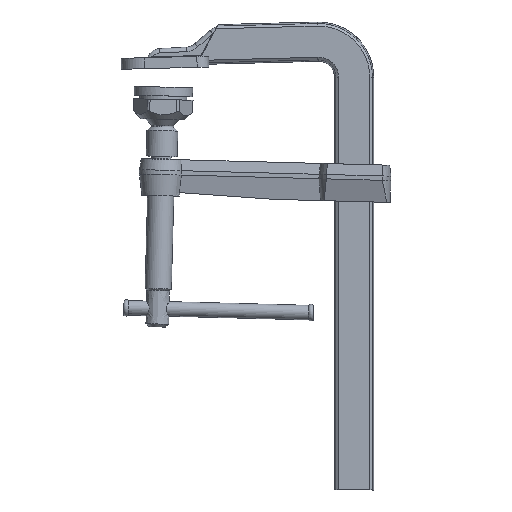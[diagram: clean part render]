
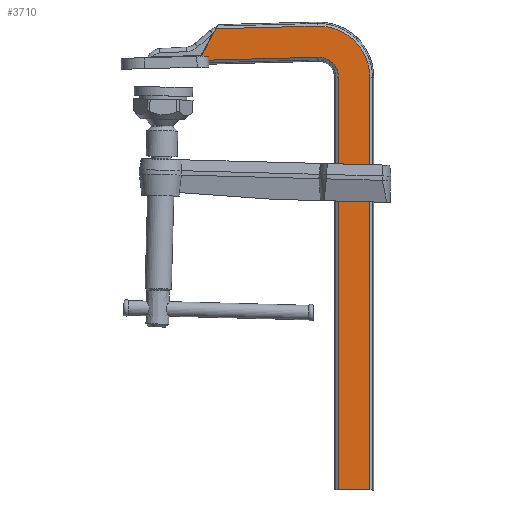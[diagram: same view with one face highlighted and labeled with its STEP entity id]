
A CAD part, front view. The second image highlights one B-rep face of the part: STEP entity #3710.
In plain terms, the highlighted free-form (B-spline) face has degree [1, 1] with [2, 2] control points.
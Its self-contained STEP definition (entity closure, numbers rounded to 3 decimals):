
#3500=CARTESIAN_POINT('',(1.8,-6.5,0.));
#3501=VERTEX_POINT('',#3500);
#3516=CARTESIAN_POINT('',(1.8,-6.5,-283.));
#3517=VERTEX_POINT('',#3516);
#3523=CARTESIAN_POINT('',(1.8,-6.5,-283.));
#3524=CARTESIAN_POINT('',(1.8,-6.5,0.));
#3525=B_SPLINE_CURVE_WITH_KNOTS('',1,(#3523,#3524),.POLYLINE_FORM.,.F.,.U.,(2,2),(0.586,1.),.UNSPECIFIED.);
#3526=EDGE_CURVE('',#3517,#3501,#3525,.T.);
#3620=CARTESIAN_POINT('',(23.2,-6.5,0.));
#3621=VERTEX_POINT('',#3620);
#3628=CARTESIAN_POINT('',(23.2,-6.5,-283.));
#3629=VERTEX_POINT('',#3628);
#3635=CARTESIAN_POINT('',(23.2,-6.5,-283.));
#3636=CARTESIAN_POINT('',(23.2,-6.5,0.));
#3637=B_SPLINE_CURVE_WITH_KNOTS('',1,(#3635,#3636),.POLYLINE_FORM.,.F.,.U.,(2,2),(0.586,1.),.UNSPECIFIED.);
#3638=EDGE_CURVE('',#3629,#3621,#3637,.T.);
#3643=CARTESIAN_POINT('',(364.476,-6.5,105.554));
#3644=CARTESIAN_POINT('',(364.476,-6.5,-732.978));
#3645=CARTESIAN_POINT('',(-474.056,-6.5,105.554));
#3646=CARTESIAN_POINT('',(-474.056,-6.5,-732.978));
#3647=B_SPLINE_SURFACE_WITH_KNOTS('',1,1,((#3643,#3644),(#3645,#3646)),.PLANE_SURF.,.F.,.F.,.U.,(2,2),(2,2),(0.,1.),(0.,1.),.UNSPECIFIED.);
#3648=ORIENTED_EDGE('',*,*,#3526,.F.);
#3649=CARTESIAN_POINT('',(1.8,-6.5,-283.));
#3650=CARTESIAN_POINT('',(23.2,-6.5,-283.));
#3651=B_SPLINE_CURVE_WITH_KNOTS('',1,(#3649,#3650),.POLYLINE_FORM.,.F.,.U.,(2,2),(0.,1.),.UNSPECIFIED.);
#3652=EDGE_CURVE('',#3517,#3629,#3651,.T.);
#3653=ORIENTED_EDGE('',*,*,#3652,.T.);
#3654=ORIENTED_EDGE('',*,*,#3638,.T.);
#3655=CARTESIAN_POINT('',(-12.921,-6.5,35.188));
#3656=VERTEX_POINT('',#3655);
#3657=CARTESIAN_POINT('',(23.2,-6.5,0.));
#3658=CARTESIAN_POINT('',(23.2,-6.5,14.851));
#3659=CARTESIAN_POINT('',(12.562,-6.5,25.214));
#3660=CARTESIAN_POINT('',(1.924,-6.5,35.577));
#3661=CARTESIAN_POINT('',(-12.921,-6.5,35.188));
#3662=(BOUNDED_CURVE()B_SPLINE_CURVE(2,(#3657,#3658,#3659,#3660,#3661),.CIRCULAR_ARC.,.F.,.U.)B_SPLINE_CURVE_WITH_KNOTS((3,2,3),(0.,0.5,1.),.UNSPECIFIED.)CURVE()GEOMETRIC_REPRESENTATION_ITEM()RATIONAL_B_SPLINE_CURVE((1.,0.921,1.,0.921,1.))REPRESENTATION_ITEM(''));
#3663=EDGE_CURVE('',#3621,#3656,#3662,.T.);
#3664=ORIENTED_EDGE('',*,*,#3663,.T.);
#3665=CARTESIAN_POINT('',(-82.161,-6.5,33.375));
#3666=VERTEX_POINT('',#3665);
#3667=CARTESIAN_POINT('',(-12.921,-6.5,35.188));
#3668=CARTESIAN_POINT('',(-82.161,-6.5,33.375));
#3669=B_SPLINE_CURVE_WITH_KNOTS('',1,(#3667,#3668),.POLYLINE_FORM.,.F.,.U.,(2,2),(0.,0.577),.UNSPECIFIED.);
#3670=EDGE_CURVE('',#3656,#3666,#3669,.T.);
#3671=ORIENTED_EDGE('',*,*,#3670,.T.);
#3672=CARTESIAN_POINT('',(-92.411,-6.5,14.497));
#3673=VERTEX_POINT('',#3672);
#3674=CARTESIAN_POINT('',(-82.161,-6.5,33.375));
#3675=CARTESIAN_POINT('',(-92.411,-6.5,14.497));
#3676=B_SPLINE_CURVE_WITH_KNOTS('',1,(#3674,#3675),.POLYLINE_FORM.,.F.,.U.,(2,2),(0.903,0.936),.UNSPECIFIED.);
#3677=EDGE_CURVE('',#3666,#3673,#3676,.T.);
#3678=ORIENTED_EDGE('',*,*,#3677,.T.);
#3679=CARTESIAN_POINT('',(-87.411,-6.5,14.628));
#3680=VERTEX_POINT('',#3679);
#3681=CARTESIAN_POINT('',(-92.411,-6.5,14.497));
#3682=CARTESIAN_POINT('',(-87.411,-6.5,14.628));
#3683=B_SPLINE_CURVE_WITH_KNOTS('',1,(#3681,#3682),.POLYLINE_FORM.,.F.,.U.,(2,2),(0.271,0.288),.UNSPECIFIED.);
#3684=EDGE_CURVE('',#3673,#3680,#3683,.T.);
#3685=ORIENTED_EDGE('',*,*,#3684,.T.);
#3686=CARTESIAN_POINT('',(-87.338,-6.5,11.832));
#3687=VERTEX_POINT('',#3686);
#3688=CARTESIAN_POINT('',(-87.411,-6.5,14.628));
#3689=CARTESIAN_POINT('',(-87.338,-6.5,11.832));
#3690=B_SPLINE_CURVE_WITH_KNOTS('',1,(#3688,#3689),.POLYLINE_FORM.,.F.,.U.,(2,2),(0.951,0.955),.UNSPECIFIED.);
#3691=EDGE_CURVE('',#3680,#3687,#3690,.T.);
#3692=ORIENTED_EDGE('',*,*,#3691,.T.);
#3693=CARTESIAN_POINT('',(-12.361,-6.5,13.795));
#3694=VERTEX_POINT('',#3693);
#3695=CARTESIAN_POINT('',(-87.338,-6.5,11.832));
#3696=CARTESIAN_POINT('',(-12.361,-6.5,13.795));
#3697=B_SPLINE_CURVE_WITH_KNOTS('',1,(#3695,#3696),.POLYLINE_FORM.,.F.,.U.,(2,2),(0.375,1.),.UNSPECIFIED.);
#3698=EDGE_CURVE('',#3687,#3694,#3697,.T.);
#3699=ORIENTED_EDGE('',*,*,#3698,.T.);
#3700=CARTESIAN_POINT('',(-12.361,-6.5,13.795));
#3701=CARTESIAN_POINT('',(-6.541,-6.5,13.948));
#3702=CARTESIAN_POINT('',(-2.37,-6.5,9.885));
#3703=CARTESIAN_POINT('',(1.8,-6.5,5.822));
#3704=CARTESIAN_POINT('',(1.8,-6.5,0.));
#3705=(BOUNDED_CURVE()B_SPLINE_CURVE(2,(#3700,#3701,#3702,#3703,#3704),.CIRCULAR_ARC.,.F.,.U.)B_SPLINE_CURVE_WITH_KNOTS((3,2,3),(0.,0.5,1.),.UNSPECIFIED.)CURVE()GEOMETRIC_REPRESENTATION_ITEM()RATIONAL_B_SPLINE_CURVE((1.,0.921,1.,0.921,1.))REPRESENTATION_ITEM(''));
#3706=EDGE_CURVE('',#3694,#3501,#3705,.T.);
#3707=ORIENTED_EDGE('',*,*,#3706,.T.);
#3708=EDGE_LOOP('',(#3648,#3653,#3654,#3664,#3671,#3678,#3685,#3692,#3699,#3707));
#3709=FACE_OUTER_BOUND('',#3708,.T.);
#3710=ADVANCED_FACE('',(#3709),#3647,.T.);
